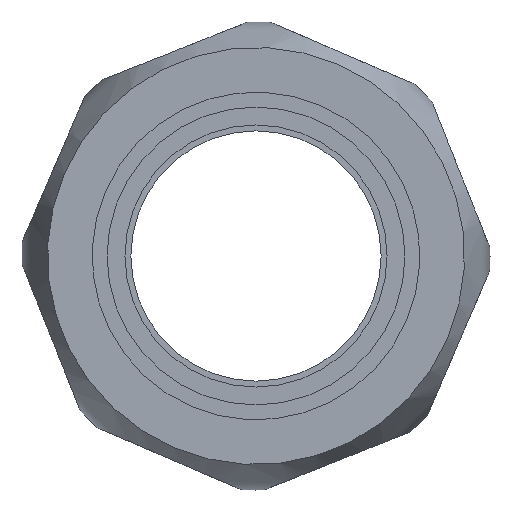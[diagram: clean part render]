
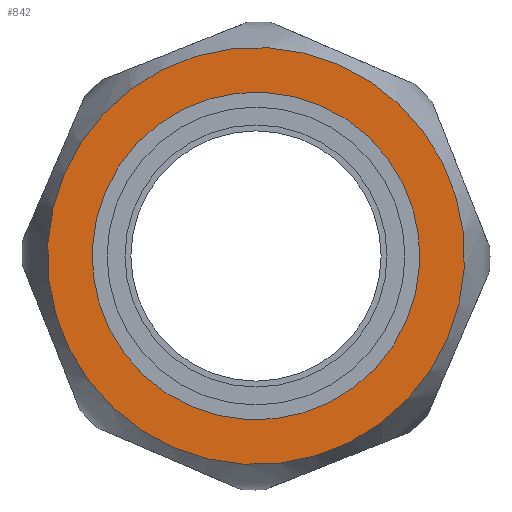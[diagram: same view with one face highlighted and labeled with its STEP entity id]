
A CAD part, left-side view. The second image highlights one B-rep face of the part: STEP entity #842.
In plain terms, the highlighted planar face has unit normal (-1, 0, 0) as drawn and (1, 0, 0) by its records, which use the part's own axes.
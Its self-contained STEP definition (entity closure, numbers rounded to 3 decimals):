
#164=FACE_BOUND('',#319,.T.);
#225=FACE_OUTER_BOUND('',#318,.T.);
#318=EDGE_LOOP('',(#753,#754));
#319=EDGE_LOOP('',(#755));
#374=CIRCLE('',#958,17.5);
#375=CIRCLE('',#959,17.5);
#376=CIRCLE('',#961,13.75);
#450=VERTEX_POINT('',#1988);
#451=VERTEX_POINT('',#1989);
#452=VERTEX_POINT('',#1999);
#550=EDGE_CURVE('',#450,#451,#374,.T.);
#551=EDGE_CURVE('',#451,#450,#375,.T.);
#554=EDGE_CURVE('',#452,#452,#376,.T.);
#753=ORIENTED_EDGE('',*,*,#550,.T.);
#754=ORIENTED_EDGE('',*,*,#551,.T.);
#755=ORIENTED_EDGE('',*,*,#554,.F.);
#782=PLANE('',#960);
#842=ADVANCED_FACE('',(#225,#164),#782,.T.);
#958=AXIS2_PLACEMENT_3D('',#1990,#1201,#1202);
#959=AXIS2_PLACEMENT_3D('',#1991,#1203,#1204);
#960=AXIS2_PLACEMENT_3D('',#1998,#1205,#1206);
#961=AXIS2_PLACEMENT_3D('',#2000,#1207,#1208);
#1201=DIRECTION('center_axis',(1.,0.,0.));
#1202=DIRECTION('ref_axis',(0.,1.,0.));
#1203=DIRECTION('center_axis',(1.,0.,0.));
#1204=DIRECTION('ref_axis',(0.,1.,0.));
#1205=DIRECTION('center_axis',(1.,0.,0.));
#1206=DIRECTION('ref_axis',(0.,0.,-1.));
#1207=DIRECTION('center_axis',(1.,0.,0.));
#1208=DIRECTION('ref_axis',(0.,1.,0.));
#1988=CARTESIAN_POINT('',(16.5,17.5,0.));
#1989=CARTESIAN_POINT('',(16.5,0.,17.5));
#1990=CARTESIAN_POINT('Origin',(16.5,0.,0.));
#1991=CARTESIAN_POINT('Origin',(16.5,0.,0.));
#1998=CARTESIAN_POINT('Origin',(16.5,15.625,0.));
#1999=CARTESIAN_POINT('',(16.5,13.75,0.));
#2000=CARTESIAN_POINT('Origin',(16.5,0.,0.));
